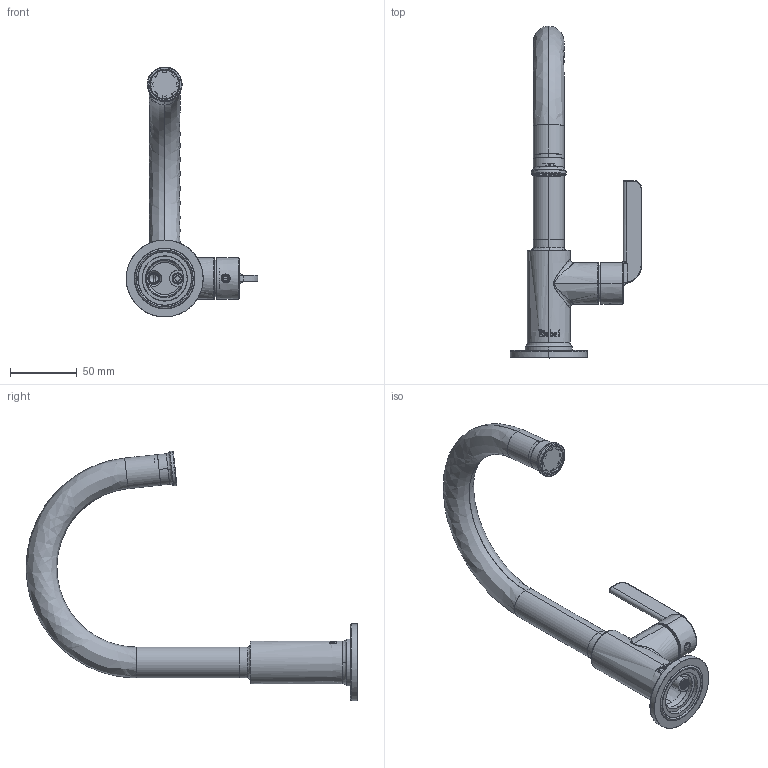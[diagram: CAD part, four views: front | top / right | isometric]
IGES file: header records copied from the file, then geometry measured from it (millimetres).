
Start section: SolidWorks IGES file using analytic representation for surfaces
Global section: file name: W:\mliu8\project\ADHOC-02291\sku_au701series_igs\sku_au701series_igs.IGS; native system: SolidWorks 2023; preprocessor: SolidWorks 2023; author: mliu8; date: 240724.160012; units: millimetre
Bounding box: 98.3 x 247.87 x 186.71 mm (x, y, z)
Surface area: 91755.7 mm2 (no closed solid volume)
Topology: 0 solids, 0 shells, 1284 faces, 14498 edges, 14476 vertices
Faces by surface type: bspline 721, revolution 563
